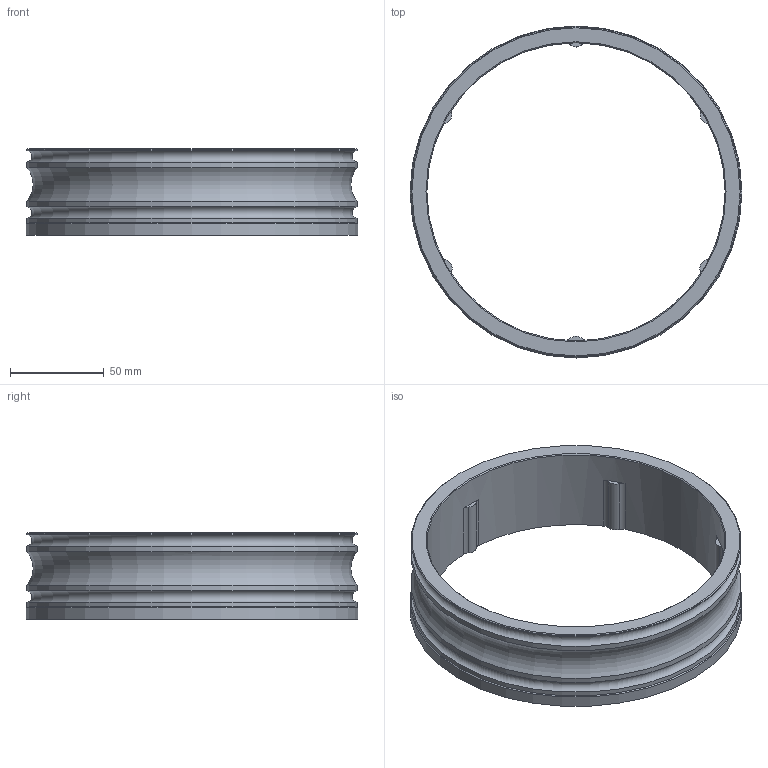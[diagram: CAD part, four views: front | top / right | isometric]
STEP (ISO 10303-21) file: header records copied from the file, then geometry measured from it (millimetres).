
FILE_DESCRIPTION( ( 'Unknown' ), '1' );
FILE_NAME( 'F:/navkite transat/construction/2016/3D ET ASSEMBLAGES/self tailing/WI 01.stp', 'Unknown', ( 'GMA' ), ( 'Unknown' ), 'XStep 1.0', 'Unknown', ' ' );
FILE_SCHEMA( ( 'automotive_design' ) );
Length unit declared in the file: millimetre
Products named in the file (1): 1
Bounding box: 177 x 177 x 46 mm (x, y, z)
Volume: 173154.1 mm3; surface area: 62707.2 mm2
Topology: 1 solids, 1 shells, 50 faces, 135 edges, 87 vertices
Faces by surface type: cylinder 30, cone 9, plane 8, torus 3
Full cylindrical faces by diameter (mm): 3.242 x6, 159 x1, 176 x4, 177 x1
Entity records: 1798 total; most frequent: DIRECTION 272, CARTESIAN_POINT 227, ORIENTED_EDGE 194, AXIS2_PLACEMENT_3D 124, EDGE_CURVE 97, VERTEX_POINT 79, EDGE_LOOP 76, CIRCLE 73
